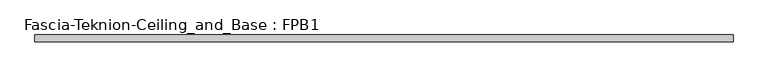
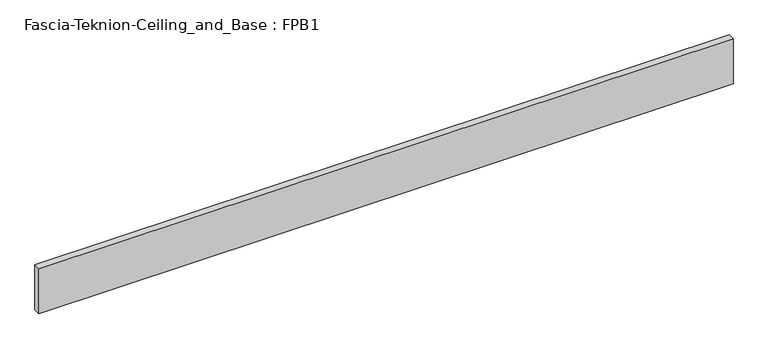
"""IFC4 building model written with IfcOpenShell, lengths in millimetres: proxy geometry, Fascia-Teknion-Ceiling_and_Base : FPB1."""

from ifc_helpers import new_model, si_unit, origin, origin_with_axes, place, context, project, spatial, polyline, outline, extrude, source, transform, mapped, element, save


def fascia_teknion_ceiling_and_base_fpb1_f118ea03(model_context):
    return source(origin(), model_context, "Body", "SweptSolid", [
        extrude(outline(polyline([(962.6147563, 0.0), (-962.6147562, 0.0), (-962.6147562, 19.05), (962.6147563, 19.05), (962.6147563, 0.0)])), origin_with_axes(), (0.0, 0.0, 1.0), 132.08),
    ])


if __name__ == "__main__":
    model = new_model("IFC4")
    model_context = context("Model", 3, world=origin())
    ifc_project = project(units=[si_unit("LENGTHUNIT", "METRE", prefix="MILLI")], contexts=[model_context])
    site = spatial("IfcSite", under=ifc_project)
    building = spatial("IfcBuilding", under=site)
    placement = place(None, origin())
    fascia_teknion_ceiling_and_base_fpb1_shape = fascia_teknion_ceiling_and_base_fpb1_f118ea03(model_context)
    element("IfcBuildingElementProxy", 1, Name="Fascia-Teknion-Ceiling_and_Base : FPB1", ObjectType="Fascia-Teknion-Ceiling_and_Base : FPB1", at=placement, inside=building, context=model_context, shape_type="MappedRepresentation", body=[
        mapped(fascia_teknion_ceiling_and_base_fpb1_shape, transform((0.0, 0.0, 0.0), x_axis=(1.0, 0.0, 0.0), y_axis=(0.0, 1.0, 0.0), z_axis=(0.0, 0.0, 1.0))),
    ])
    save(model, "model.ifc")
